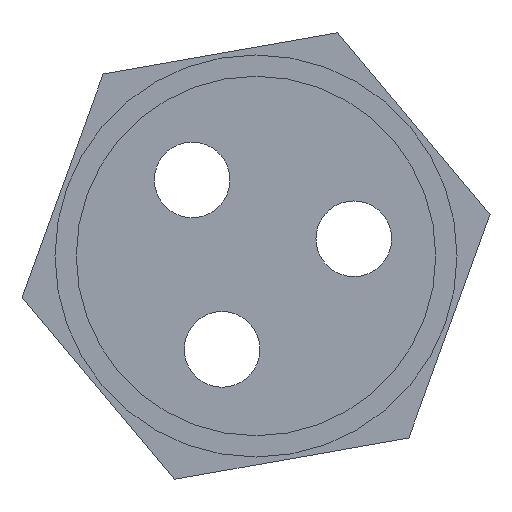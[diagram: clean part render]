
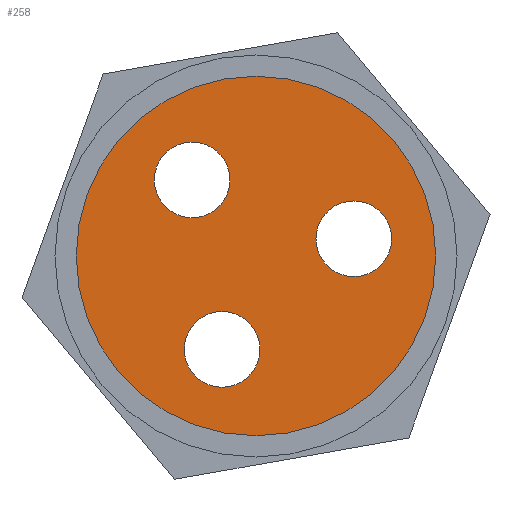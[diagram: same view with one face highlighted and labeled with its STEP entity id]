
A CAD part, left-side view. The second image highlights one B-rep face of the part: STEP entity #258.
In plain terms, the highlighted planar face has unit normal (-1, 0, 0).
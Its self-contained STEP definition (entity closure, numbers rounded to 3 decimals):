
#16=FACE_BOUND('',#55,.T.);
#17=FACE_BOUND('',#56,.T.);
#18=FACE_BOUND('',#57,.T.);
#24=PLANE('',#296);
#38=FACE_OUTER_BOUND('',#54,.T.);
#54=EDGE_LOOP('',(#200));
#55=EDGE_LOOP('',(#201));
#56=EDGE_LOOP('',(#202));
#57=EDGE_LOOP('',(#203));
#118=CIRCLE('',#284,1.6);
#120=CIRCLE('',#287,1.6);
#122=CIRCLE('',#290,1.6);
#123=CIRCLE('',#292,7.6);
#128=VERTEX_POINT('',#386);
#130=VERTEX_POINT('',#392);
#132=VERTEX_POINT('',#398);
#133=VERTEX_POINT('',#402);
#151=EDGE_CURVE('',#128,#128,#118,.T.);
#154=EDGE_CURVE('',#130,#130,#120,.T.);
#157=EDGE_CURVE('',#132,#132,#122,.T.);
#158=EDGE_CURVE('',#133,#133,#123,.T.);
#200=ORIENTED_EDGE('',*,*,#158,.T.);
#201=ORIENTED_EDGE('',*,*,#151,.F.);
#202=ORIENTED_EDGE('',*,*,#154,.F.);
#203=ORIENTED_EDGE('',*,*,#157,.F.);
#258=ADVANCED_FACE('',(#38,#16,#17,#18),#24,.F.);
#284=AXIS2_PLACEMENT_3D('',#388,#314,#315);
#287=AXIS2_PLACEMENT_3D('',#394,#321,#322);
#290=AXIS2_PLACEMENT_3D('',#400,#328,#329);
#292=AXIS2_PLACEMENT_3D('',#403,#332,#333);
#296=AXIS2_PLACEMENT_3D('',#410,#341,#342);
#314=DIRECTION('center_axis',(-1.,0.,0.));
#315=DIRECTION('ref_axis',(0.,-0.94,-0.342));
#321=DIRECTION('center_axis',(-1.,0.,0.));
#322=DIRECTION('ref_axis',(0.,-0.94,-0.342));
#328=DIRECTION('center_axis',(-1.,0.,0.));
#329=DIRECTION('ref_axis',(0.,-0.94,-0.342));
#332=DIRECTION('center_axis',(-1.,0.,0.));
#333=DIRECTION('ref_axis',(0.,0.94,0.342));
#341=DIRECTION('center_axis',(1.,0.,0.));
#342=DIRECTION('ref_axis',(0.,0.94,0.342));
#386=CARTESIAN_POINT('',(143.226,-302.633,-9.808));
#388=CARTESIAN_POINT('Origin',(143.226,-304.137,-10.355));
#392=CARTESIAN_POINT('',(143.226,-295.797,-7.32));
#394=CARTESIAN_POINT('Origin',(143.226,-297.301,-7.867));
#398=CARTESIAN_POINT('',(143.226,-297.06,-14.484));
#400=CARTESIAN_POINT('Origin',(143.226,-298.564,-15.031));
#402=CARTESIAN_POINT('',(143.226,-307.142,-13.684));
#403=CARTESIAN_POINT('Origin',(143.226,-300.,-11.085));
#410=CARTESIAN_POINT('Origin',(143.226,-300.,-11.085));
